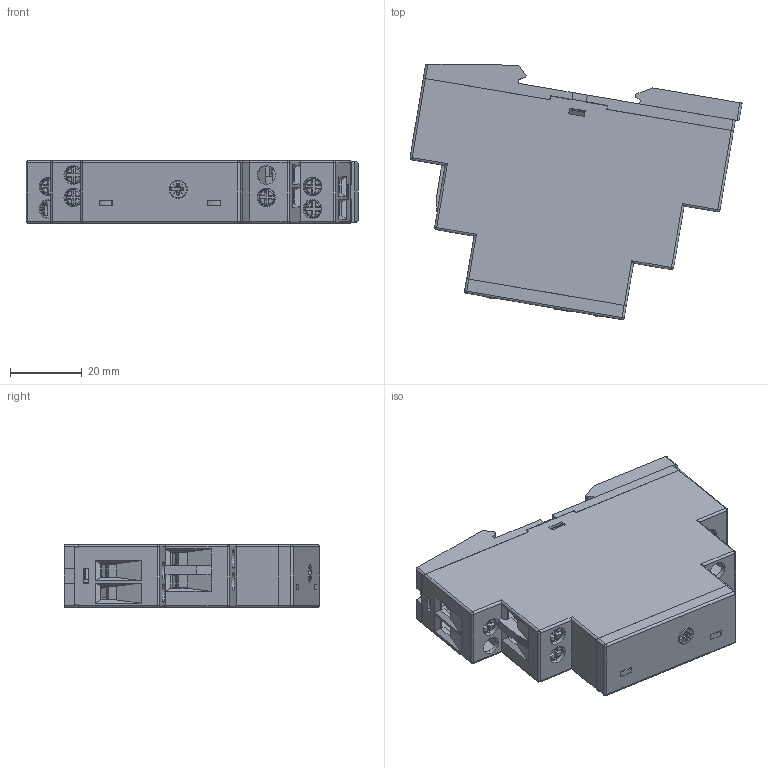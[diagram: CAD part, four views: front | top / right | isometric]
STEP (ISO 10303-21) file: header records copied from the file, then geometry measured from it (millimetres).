
FILE_DESCRIPTION (( 'STEP AP214' ), '1' );
FILE_NAME ('Enya_1_Macromatic.STEP', '2020-09-24T09:25:59', ( 'Admin' ), ( '' ), 'SwSTEP 2.0', 'SolidWorks 2020', '' );
FILE_SCHEMA (( 'AUTOMOTIVE_DESIGN' ));
Length unit declared in the file: millimetre
Products named in the file (17): Schnapper_1; ABDECKBUEGEL1_1; Klemme_montiert_1_3; Sockel_1; Enya 17,5 Fronthaube SY01_1; Enya_1_Macromatic; Klemme_montiert_1_8; Drehknopf_1; Zusammenbau_Sockel(Alt)_1; Klemme_montiert_1_5; Rastfeder2_1; ENYA1175_1; Klemme_montiert_1_2; Klemme_montiert_1_7; Klemme_montiert_1_4; 075030-KLEMMSCHRAUBE_OCTO1_1; 075032-ZUGBUEGEL1_1
Assembly tree (31 placements, depth 3):
  Enya_1_Macromatic
    Klemme_montiert_1_2
      075032-ZUGBUEGEL1_1
      ABDECKBUEGEL1_1
      075030-KLEMMSCHRAUBE_OCTO1_1
    Klemme_montiert_1_3
      075032-ZUGBUEGEL1_1
      ABDECKBUEGEL1_1
      075030-KLEMMSCHRAUBE_OCTO1_1
    Klemme_montiert_1_4
      075032-ZUGBUEGEL1_1
      ABDECKBUEGEL1_1
      075030-KLEMMSCHRAUBE_OCTO1_1
    Klemme_montiert_1_5
      075032-ZUGBUEGEL1_1
      ABDECKBUEGEL1_1
      075030-KLEMMSCHRAUBE_OCTO1_1
    Klemme_montiert_1_7
      075032-ZUGBUEGEL1_1
      ABDECKBUEGEL1_1
      075030-KLEMMSCHRAUBE_OCTO1_1
    Klemme_montiert_1_8
      075032-ZUGBUEGEL1_1
      ABDECKBUEGEL1_1
      075030-KLEMMSCHRAUBE_OCTO1_1
    ENYA1175_1
    Zusammenbau_Sockel(Alt)_1
      Sockel_1
      Schnapper_1
    Enya 17,5 Fronthaube SY01_1
    Rastfeder2_1
    Drehknopf_1
Bounding box: 92.24 x 70.93 x 17.5 mm (x, y, z)
Volume: 25738.6 mm3; surface area: 42061.5 mm2
Topology: 25 solids, 27 shells, 2253 faces, 6198 edges, 4005 vertices
Faces by surface type: plane 1617, cylinder 399, bspline 172, cone 61, sphere 4
Entity records: 52647 total; most frequent: CARTESIAN_POINT 11601, ORIENTED_EDGE 8850, DIRECTION 7736, EDGE_CURVE 4425, LINE 3618, VECTOR 3618, VERTEX_POINT 2870, AXIS2_PLACEMENT_3D 2059
